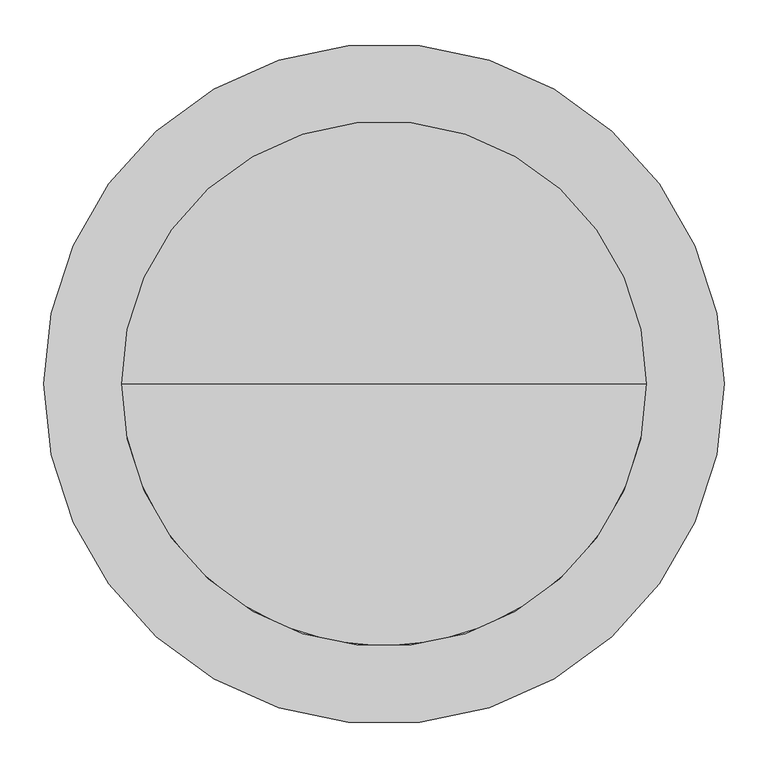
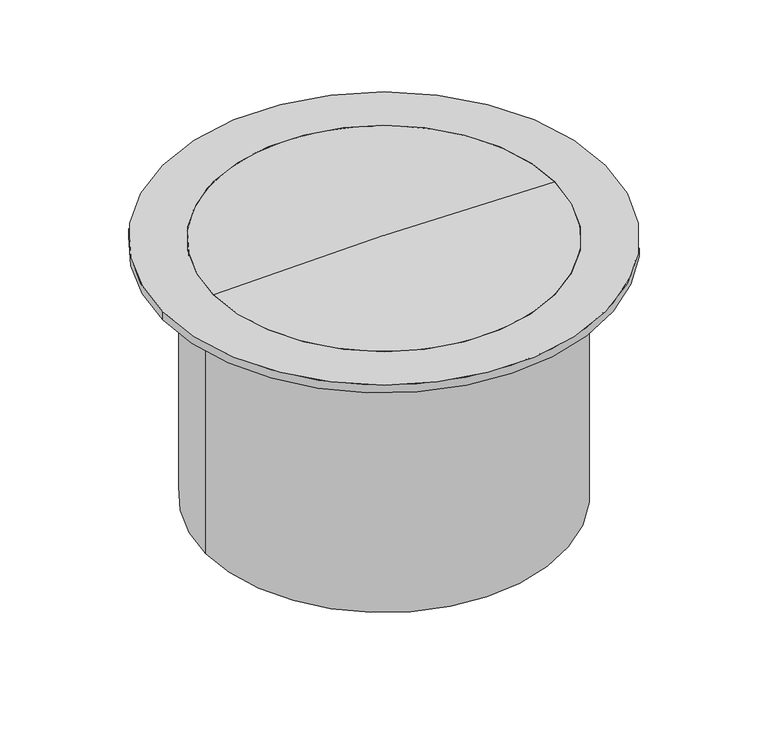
"""IFC4 building model written with IfcOpenShell, lengths in millimetres: proxy geometry, GRAF Tele Dome 600 Maxi : 600 Maxi."""

from ifc_helpers import new_model, si_unit, point, frame, origin, origin_2d, place, context, project, spatial, polyline, circle_curve, ellipse_curve, trimmed, segment, composite_curve, outline, extrude, source, transform, mapped, element, save
from ifc_brep_helpers import plane_surface, cylinder_surface, revolved_surface, advanced_brep


def specialty_equipment_9f4d5454(model_context):
    return source(origin(), model_context, "Body", "SolidModel", [
        extrude(outline(composite_curve([segment(trimmed(circle_curve(origin_2d(), 388.9599098), [point((-388.9599098, 0.0))], [point((388.9599098, 0.0))], False, "CARTESIAN"), True, "CONTINUOUS"), segment(trimmed(circle_curve(origin_2d(), 388.9599098), [point((388.9599098, 0.0))], [point((-388.9599098, 0.0))], False, "CARTESIAN"), True, "CONTINUOUS")], self_intersect=False), holes=[composite_curve([segment(trimmed(circle_curve(origin_2d(), 300.0), [point((-300.0, 0.0))], [point((300.0, 0.0))], True, "CARTESIAN"), True, "CONTINUOUS"), segment(trimmed(circle_curve(origin_2d(), 300.0), [point((300.0, 0.0))], [point((-300.0, 0.0))], True, "CARTESIAN"), True, "CONTINUOUS")], self_intersect=False)]), frame((0.0, 0.0, -14.9500624), z_axis=(0.0, 0.0, 1.0), x_axis=(1.0, 0.0, 0.0)), (0.0, 0.0, 1.0), 14.9500624),
        advanced_brep(
        [(0.0, 0.0, -14.9500624), (-300.0, 0.0, -14.9500624), (300.0, 0.0, -14.9500624), (300.0, 0.0, 0.0), (-300.0, 0.0, 0.0), (0.0, 0.0, 6.1740495)],
        [
            (0, 1),
            (1, 2, circle_curve(frame((0.0, 0.0, -14.9500624), z_axis=(0.0, 0.0, -1.0), x_axis=(-1.0, 0.0, 0.0)), 300.0)),
            (2, 0),
            (2, 1, circle_curve(frame((0.0, 0.0, -14.9500624), z_axis=(0.0, 0.0, -1.0), x_axis=(-1.0, 0.0, 0.0)), 300.0)),
            (3, 4, circle_curve(frame((0.0, 0.0, 0.0), z_axis=(0.0, 0.0, 1.0), x_axis=(-1.0, 0.0, 0.0)), 300.0)),
            (4, 5, circle_curve(frame((0.0, 0.0, -7285.4842816), z_axis=(0.0, 1.0, 0.0), x_axis=(1.0, 0.0, 0.0)), 7291.6583311)),
            (5, 3, circle_curve(frame((0.0, 0.0, -7285.4842816), z_axis=(0.0, 1.0, 0.0), x_axis=(-1.0, 0.0, 0.0)), 7291.6583311)),
            (4, 3, circle_curve(frame((0.0, 0.0, 0.0), z_axis=(0.0, 0.0, 1.0), x_axis=(-1.0, 0.0, 0.0)), 300.0)),
            (1, 4),
            (3, 2),
        ],
        [
            plane_surface(frame((0.0, 0.0, -14.9500624), z_axis=(0.0, 0.0, -1.0), x_axis=(-1.0, 0.0, 0.0))),
            revolved_surface(trimmed(ellipse_curve(frame((0.0, 0.0, -7285.4842816), z_axis=(0.0, -1.0, 0.0), x_axis=(1.0, 0.0, 0.0)), 7291.6583311, 7291.6583311), [point((0.0, 0.0, 6.1740495))], [point((-300.0, 0.0, 0.0))], True, "CARTESIAN"), (0.0, 0.0, -119.9500624), (0.0, 0.0, -1.0)),
            cylinder_surface(frame((0.0, 0.0, -119.9500624), z_axis=(0.0, 0.0, -1.0), x_axis=(-1.0, 0.0, 0.0)), 300.0),
        ],
        [
            (0, [[1, 2, 3]]),
            (0, [[-3, 4, -1]]),
            (1, [[5, 6, 7]]),
            (1, [[8, -7, -6]]),
            (2, [[-2, 9, -5, 10]]),
            (2, [[-4, -10, -8, -9]]),
        ],
    ),
        extrude(outline(composite_curve([segment(trimmed(circle_curve(origin_2d(), 313.0), [point((-313.0, 0.0))], [point((313.0, 0.0))], False, "CARTESIAN"), True, "CONTINUOUS"), segment(trimmed(circle_curve(origin_2d(), 313.0), [point((313.0, 0.0))], [point((-313.0, 0.0))], False, "CARTESIAN"), True, "CONTINUOUS")], self_intersect=False), holes=[composite_curve([segment(trimmed(circle_curve(origin_2d(), 300.0), [point((-300.0, 0.0))], [point((300.0, 0.0))], True, "CARTESIAN"), True, "CONTINUOUS"), segment(trimmed(circle_curve(origin_2d(), 300.0), [point((300.0, 0.0))], [point((-300.0, 0.0))], True, "CARTESIAN"), True, "CONTINUOUS")], self_intersect=False)]), frame((0.0, 0.0, -476.0), z_axis=(0.0, 0.0, 1.0), x_axis=(1.0, 0.0, 0.0)), (0.0, 0.0, 1.0), 461.0499376),
        extrude(outline(polyline([(-42.0990731, 0.0), (0.0, 0.0), (-42.0990731, -57.1373839), (-42.0990731, 0.0)])), frame((298.912638, -92.9797552, -57.0491355), z_axis=(0.2817325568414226, 0.9594929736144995, 0.0), x_axis=(0.0, 0.0, -1.0)), (0.0, 0.0, 1.0), 10.0),
        extrude(outline(polyline([(-42.0990731, 0.0), (0.0, 0.0), (-42.0990731, -57.137384), (-42.0990731, 0.0)])), frame((260.6091517, -173.4268435, -57.0491355), z_axis=(0.5406408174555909, 0.8412535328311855, 0.0), x_axis=(0.0, 0.0, -1.0)), (0.0, 0.0, 1.0), 10.0),
        extrude(outline(polyline([(-42.0990731, 0.0), (0.0, 0.0), (-42.0990731, -57.137384), (-42.0990731, 0.0)])), frame((201.1926619, -239.8239204, -57.0491355), z_axis=(0.7557495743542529, 0.6548607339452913, 0.0), x_axis=(0.0, 0.0, -1.0)), (0.0, 0.0, 1.0), 10.0),
        extrude(outline(polyline([(-42.0990731, 0.0), (0.0, 0.0), (-42.0990731, -57.137384), (-42.0990731, 0.0)])), frame((125.4767391, -286.7918896, -57.0491355), z_axis=(0.9096319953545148, 0.4154150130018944, 0.0), x_axis=(0.0, 0.0, -1.0)), (0.0, 0.0, 1.0), 10.0),
        extrude(outline(polyline([(-42.0990731, 0.0), (0.0, 0.0), (-42.0990731, -57.137384), (-42.0990731, 0.0)])), frame((39.5954372, -310.5256855, -57.0491355), z_axis=(0.9898214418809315, 0.1423148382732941, 0.0), x_axis=(0.0, 0.0, -1.0)), (0.0, 0.0, 1.0), 10.0),
        extrude(outline(polyline([(42.0990731, 0.0), (42.0990731, -57.137384), (0.0, 0.0), (42.0990731, 0.0)])), frame((-39.5954372, -310.5256855, -57.0491355), z_axis=(-0.9898214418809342, 0.14231483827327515, 0.0), x_axis=(0.0, 0.0, 1.0)), (0.0, 0.0, 1.0), 10.0),
        extrude(outline(polyline([(42.0990731, 0.0), (42.0990731, -57.137384), (0.0, 0.0), (42.0990731, 0.0)])), frame((-125.4767391, -286.7918896, -57.0491355), z_axis=(-0.9096319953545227, 0.41541501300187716, 0.0), x_axis=(0.0, 0.0, 1.0)), (0.0, 0.0, 1.0), 10.0),
        extrude(outline(polyline([(42.0990731, 0.0), (42.0990731, -57.137384), (0.0, 0.0), (42.0990731, 0.0)])), frame((-201.1926619, -239.8239204, -57.0491355), z_axis=(-0.7557495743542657, 0.6548607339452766, 0.0), x_axis=(0.0, 0.0, 1.0)), (0.0, 0.0, 1.0), 10.0),
        extrude(outline(polyline([(42.0990731, 0.0), (42.0990731, -57.137384), (0.0, 0.0), (42.0990731, 0.0)])), frame((-260.6091517, -173.4268435, -57.0491355), z_axis=(-0.5406408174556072, 0.8412535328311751, 0.0), x_axis=(0.0, 0.0, 1.0)), (0.0, 0.0, 1.0), 10.0),
        extrude(outline(polyline([(42.0990731, 0.0), (42.0990731, -57.1373839), (0.0, 0.0), (42.0990731, 0.0)])), frame((-298.912638, -92.9797552, -57.0491355), z_axis=(-0.28173255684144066, 0.9594929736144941, 0.0), x_axis=(0.0, 0.0, 1.0)), (0.0, 0.0, 1.0), 10.0),
        extrude(outline(polyline([(0.0, 0.0), (0.0, -42.0990731), (-57.137384, 0.0), (0.0, 0.0)])), frame((301.7299635, 83.3848254, -14.9500624), z_axis=(-0.2817325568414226, 0.9594929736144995, 0.0), x_axis=(-0.9594929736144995, -0.2817325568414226, 0.0)), (0.0, 0.0, 1.0), 10.0),
        extrude(outline(polyline([(0.0, 0.0), (0.0, -42.0990731), (-57.137384, 0.0), (0.0, 0.0)])), frame((266.0155599, 165.0143082, -14.9500624), z_axis=(-0.5406408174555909, 0.8412535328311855, 0.0), x_axis=(-0.8412535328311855, -0.5406408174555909, 0.0)), (0.0, 0.0, 1.0), 10.0),
        extrude(outline(polyline([(0.0, 0.0), (0.0, -42.0990731), (-57.137384, 0.0), (0.0, 0.0)])), frame((208.7501576, 233.2753131, -14.9500624), z_axis=(-0.7557495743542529, 0.6548607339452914, 0.0), x_axis=(-0.6548607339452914, -0.7557495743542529, 0.0)), (0.0, 0.0, 1.0), 10.0),
        extrude(outline(polyline([(0.0, 0.0), (0.0, -42.0990731), (-57.137384, 0.0), (0.0, 0.0)])), frame((134.573059, 282.6377395, -14.9500624), z_axis=(-0.9096319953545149, 0.4154150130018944, 0.0), x_axis=(-0.4154150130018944, -0.9096319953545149, 0.0)), (0.0, 0.0, 1.0), 10.0),
        extrude(outline(polyline([(0.0, 0.0), (0.0, -42.0990731), (-57.137384, 0.0), (0.0, 0.0)])), frame((49.4936516, 309.1025371, -14.9500624), z_axis=(-0.9898214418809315, 0.1423148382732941, 0.0), x_axis=(-0.1423148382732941, -0.9898214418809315, 0.0)), (0.0, 0.0, 1.0), 10.0),
        extrude(outline(polyline([(0.0, 0.0), (57.137384, 0.0), (0.0, -42.0990731), (0.0, 0.0)])), frame((-49.4936516, 309.1025371, -14.9500624), z_axis=(0.9898214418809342, 0.14231483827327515, 0.0), x_axis=(-0.14231483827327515, 0.9898214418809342, 0.0)), (0.0, 0.0, 1.0), 10.0),
        extrude(outline(polyline([(0.0, 0.0), (57.137384, 0.0), (0.0, -42.0990731), (0.0, 0.0)])), frame((-134.573059, 282.6377395, -14.9500624), z_axis=(0.9096319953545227, 0.4154150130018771, 0.0), x_axis=(-0.4154150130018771, 0.9096319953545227, 0.0)), (0.0, 0.0, 1.0), 10.0),
        extrude(outline(polyline([(0.0, 0.0), (57.137384, 0.0), (0.0, -42.0990731), (0.0, 0.0)])), frame((-208.7501576, 233.2753131, -14.9500624), z_axis=(0.7557495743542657, 0.6548607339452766, 0.0), x_axis=(-0.6548607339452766, 0.7557495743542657, 0.0)), (0.0, 0.0, 1.0), 10.0),
        extrude(outline(polyline([(0.0, 0.0), (57.137384, 0.0), (0.0, -42.0990731), (0.0, 0.0)])), frame((-266.0155599, 165.0143082, -14.9500624), z_axis=(0.5406408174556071, 0.841253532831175, 0.0), x_axis=(-0.841253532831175, 0.5406408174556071, 0.0)), (0.0, 0.0, 1.0), 10.0),
        extrude(outline(polyline([(0.0, 0.0), (57.137384, 0.0), (0.0, -42.0990731), (0.0, 0.0)])), frame((-301.7299635, 83.3848254, -14.9500624), z_axis=(0.2817325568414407, 0.9594929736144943, 0.0), x_axis=(-0.9594929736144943, 0.2817325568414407, 0.0)), (0.0, 0.0, 1.0), 10.0),
        extrude(outline(polyline([(-14.9500624, 313.0), (-57.0491355, 313.0), (-14.9500624, 370.137384), (-14.9500624, 313.0)])), frame((0.0, -5.0, 0.0), z_axis=(0.0, 1.0, 0.0), x_axis=(0.0, 0.0, 1.0)), (0.0, 0.0, 1.0), 10.0),
        extrude(outline(polyline([(-14.9500624, -313.0), (-14.9500624, -370.137384), (-57.0491355, -313.0), (-14.9500624, -313.0)])), frame((0.0, -5.0, 0.0), z_axis=(0.0, 1.0, 0.0), x_axis=(0.0, 0.0, 1.0)), (0.0, 0.0, 1.0), 10.0),
    ])


if __name__ == "__main__":
    model = new_model("IFC4")
    model_context = context("Model", 3, world=origin())
    ifc_project = project(units=[si_unit("LENGTHUNIT", "METRE", prefix="MILLI")], contexts=[model_context])
    site = spatial("IfcSite", under=ifc_project)
    building = spatial("IfcBuilding", under=site)
    placement = place(None, origin())
    specialty_equipment_shape = specialty_equipment_9f4d5454(model_context)
    element("IfcBuildingElementProxy", 1, Name="GRAF Tele Dome 600 Maxi : 600 Maxi", ObjectType="GRAF Tele Dome 600 Maxi : 600 Maxi", at=placement, inside=building, context=model_context, shape_type="MappedRepresentation", body=[
        mapped(specialty_equipment_shape, transform((0.0, 0.0, 0.0), x_axis=(1.0, 0.0, 0.0), y_axis=(0.0, 1.0, 0.0), z_axis=(0.0, 0.0, 1.0))),
    ])
    save(model, "model.ifc")
